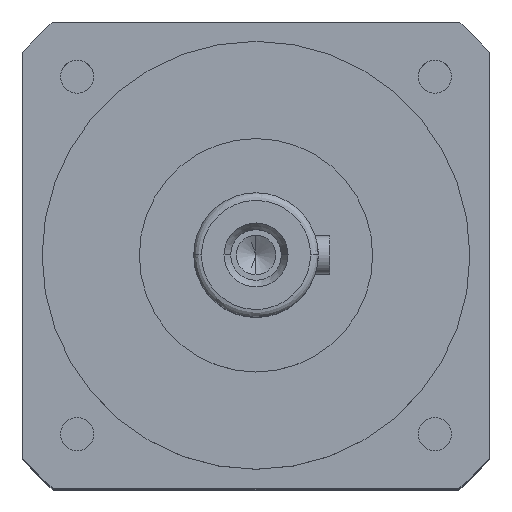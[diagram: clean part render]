
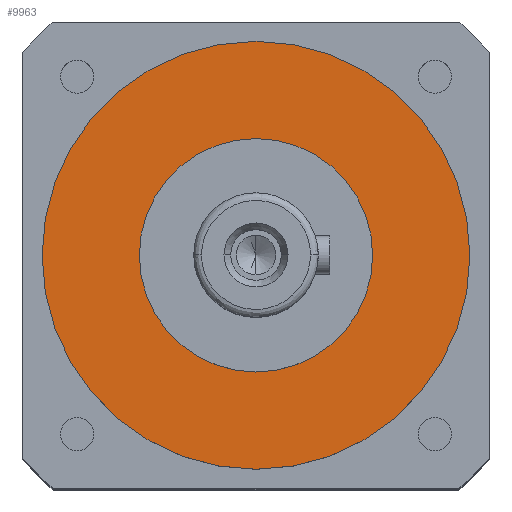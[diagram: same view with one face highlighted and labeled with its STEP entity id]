
A CAD part, top view. The second image highlights one B-rep face of the part: STEP entity #9963.
In plain terms, the highlighted planar face has unit normal (0, 0, 1).
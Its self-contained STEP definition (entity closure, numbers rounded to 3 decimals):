
#60 = EDGE_LOOP ( 'NONE', ( #5737, #16518 ) ) ;
#287 = CARTESIAN_POINT ( 'NONE',  ( 0., 30., -52. ) ) ;
#834 = VERTEX_POINT ( 'NONE', #900 ) ;
#900 = CARTESIAN_POINT ( 'NONE',  ( 55., 0., -52. ) ) ;
#1044 = CARTESIAN_POINT ( 'NONE',  ( 30., 0., -52. ) ) ;
#1710 = CIRCLE ( 'NONE', #5757, 30. ) ;
#1765 = DIRECTION ( 'NONE',  ( 1., 0., 0. ) ) ;
#1845 = VERTEX_POINT ( 'NONE', #11601 ) ;
#2527 = AXIS2_PLACEMENT_3D ( 'NONE', #15506, #2821, #3005 ) ;
#2821 = DIRECTION ( 'NONE',  ( 0., 0., -1. ) ) ;
#3005 = DIRECTION ( 'NONE',  ( 1., 0., 0. ) ) ;
#5234 = CARTESIAN_POINT ( 'NONE',  ( 0., 0., -52. ) ) ;
#5737 = ORIENTED_EDGE ( 'NONE', *, *, #18951, .F. ) ;
#5757 = AXIS2_PLACEMENT_3D ( 'NONE', #24974, #16384, #1765 ) ;
#5966 = AXIS2_PLACEMENT_3D ( 'NONE', #287, #8932, #19327 ) ;
#6049 = ORIENTED_EDGE ( 'NONE', *, *, #6483, .F. ) ;
#6483 = EDGE_CURVE ( 'NONE', #10402, #21971, #1710, .T. ) ;
#7140 = CARTESIAN_POINT ( 'NONE',  ( 0., 0., -52. ) ) ;
#8029 = ORIENTED_EDGE ( 'NONE', *, *, #17787, .F. ) ;
#8747 = PLANE ( 'NONE',  #5966 ) ;
#8932 = DIRECTION ( 'NONE',  ( 0., 0., -1. ) ) ;
#9446 = DIRECTION ( 'NONE',  ( 1., 0., 0. ) ) ;
#9963 = ADVANCED_FACE ( 'NONE', ( #25579, #23918 ), #8747, .F. ) ;
#10355 = CARTESIAN_POINT ( 'NONE',  ( -30., 0., -52. ) ) ;
#10402 = VERTEX_POINT ( 'NONE', #1044 ) ;
#11601 = CARTESIAN_POINT ( 'NONE',  ( -55., 0., -52. ) ) ;
#11835 = DIRECTION ( 'NONE',  ( 0., 0., -1. ) ) ;
#12627 = EDGE_CURVE ( 'NONE', #1845, #834, #25924, .T. ) ;
#13004 = EDGE_LOOP ( 'NONE', ( #6049, #8029 ) ) ;
#15506 = CARTESIAN_POINT ( 'NONE',  ( 0., 0., -52. ) ) ;
#15555 = AXIS2_PLACEMENT_3D ( 'NONE', #5234, #11835, #26235 ) ;
#16009 = CIRCLE ( 'NONE', #22865, 30. ) ;
#16384 = DIRECTION ( 'NONE',  ( 0., 0., 1. ) ) ;
#16518 = ORIENTED_EDGE ( 'NONE', *, *, #12627, .F. ) ;
#17787 = EDGE_CURVE ( 'NONE', #21971, #10402, #16009, .T. ) ;
#18951 = EDGE_CURVE ( 'NONE', #834, #1845, #22167, .T. ) ;
#19327 = DIRECTION ( 'NONE',  ( -1., 0., 0. ) ) ;
#21964 = DIRECTION ( 'NONE',  ( 0., 0., 1. ) ) ;
#21971 = VERTEX_POINT ( 'NONE', #10355 ) ;
#22167 = CIRCLE ( 'NONE', #2527, 55. ) ;
#22865 = AXIS2_PLACEMENT_3D ( 'NONE', #7140, #21964, #9446 ) ;
#23918 = FACE_BOUND ( 'NONE', #13004, .T. ) ;
#24974 = CARTESIAN_POINT ( 'NONE',  ( 0., 0., -52. ) ) ;
#25579 = FACE_OUTER_BOUND ( 'NONE', #60, .T. ) ;
#25924 = CIRCLE ( 'NONE', #15555, 55. ) ;
#26235 = DIRECTION ( 'NONE',  ( 1., 0., 0. ) ) ;
